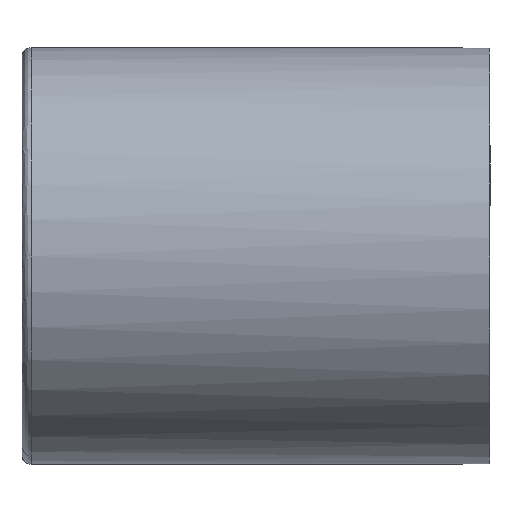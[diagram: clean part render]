
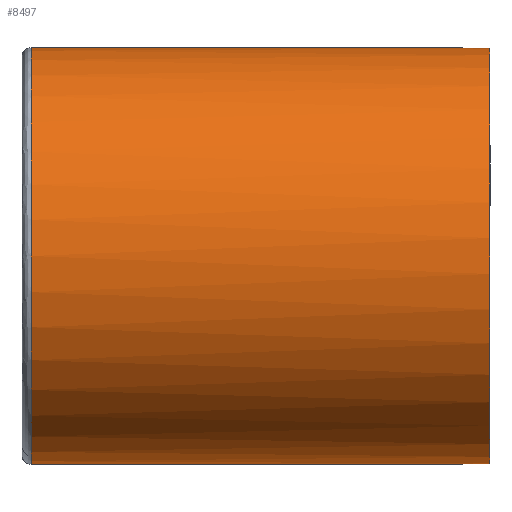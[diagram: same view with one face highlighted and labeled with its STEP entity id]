
A CAD part, front view. The second image highlights one B-rep face of the part: STEP entity #8497.
In plain terms, the highlighted cylindrical face has radius 22.5 mm (diameter 45 mm), a full revolution.
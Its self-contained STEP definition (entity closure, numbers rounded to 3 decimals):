
#204 = CIRCLE ( 'NONE', #3204, 22.5 ) ;
#886 = CARTESIAN_POINT ( 'NONE',  ( -49.9, 0., 22.5 ) ) ;
#1108 = AXIS2_PLACEMENT_3D ( 'NONE', #9171, #9163, #9159 ) ;
#1135 = CARTESIAN_POINT ( 'NONE',  ( -0.4, 20.156, 10. ) ) ;
#1149 = VERTEX_POINT ( 'NONE', #6932 ) ;
#1324 = VECTOR ( 'NONE', #6458, 1000. ) ;
#1361 = ORIENTED_EDGE ( 'NONE', *, *, #5335, .F. ) ;
#1436 = VERTEX_POINT ( 'NONE', #886 ) ;
#1711 = CARTESIAN_POINT ( 'NONE',  ( -24.17, 0., 0. ) ) ;
#1743 = DIRECTION ( 'NONE',  ( 1., 0., 0. ) ) ;
#1772 = DIRECTION ( 'NONE',  ( 0., 1., 0. ) ) ;
#1931 = LINE ( 'NONE', #6436, #1324 ) ;
#2132 = FACE_OUTER_BOUND ( 'NONE', #5630, .T. ) ;
#2238 = CIRCLE ( 'NONE', #3255, 22.5 ) ;
#2709 = EDGE_LOOP ( 'NONE', ( #5900, #1361 ) ) ;
#2770 = CARTESIAN_POINT ( 'NONE',  ( -49.9, 0., 0. ) ) ;
#2867 = AXIS2_PLACEMENT_3D ( 'NONE', #2770, #9168, #9222 ) ;
#2921 = CARTESIAN_POINT ( 'NONE',  ( -24.17, 20.156, -10. ) ) ;
#3162 = AXIS2_PLACEMENT_3D ( 'NONE', #3658, #3522, #3744 ) ;
#3204 = AXIS2_PLACEMENT_3D ( 'NONE', #1711, #1743, #1772 ) ;
#3255 = AXIS2_PLACEMENT_3D ( 'NONE', #5370, #5361, #5347 ) ;
#3522 = DIRECTION ( 'NONE',  ( -1., 0., 0. ) ) ;
#3564 = ORIENTED_EDGE ( 'NONE', *, *, #5425, .F. ) ;
#3658 = CARTESIAN_POINT ( 'NONE',  ( -0.4, 0., 0. ) ) ;
#3744 = DIRECTION ( 'NONE',  ( 0., 1., 0. ) ) ;
#3953 = CARTESIAN_POINT ( 'NONE',  ( -49.9, 0., -22.5 ) ) ;
#3989 = ORIENTED_EDGE ( 'NONE', *, *, #5539, .F. ) ;
#4030 = VERTEX_POINT ( 'NONE', #3953 ) ;
#4079 = LINE ( 'NONE', #7957, #4326 ) ;
#4326 = VECTOR ( 'NONE', #7923, 1000. ) ;
#4346 = CARTESIAN_POINT ( 'NONE',  ( -24.17, 20.156, 10. ) ) ;
#4522 = ORIENTED_EDGE ( 'NONE', *, *, #6938, .F. ) ;
#4566 = VERTEX_POINT ( 'NONE', #4346 ) ;
#4660 = ORIENTED_EDGE ( 'NONE', *, *, #5692, .T. ) ;
#4727 = CIRCLE ( 'NONE', #1108, 22.5 ) ;
#5335 = EDGE_CURVE ( 'NONE', #4030, #1436, #2238, .T. ) ;
#5347 = DIRECTION ( 'NONE',  ( 0., 0., -1. ) ) ;
#5361 = DIRECTION ( 'NONE',  ( -1., 0., 0. ) ) ;
#5370 = CARTESIAN_POINT ( 'NONE',  ( -49.9, 0., 0. ) ) ;
#5425 = EDGE_CURVE ( 'NONE', #1149, #6751, #1931, .T. ) ;
#5492 = VERTEX_POINT ( 'NONE', #1135 ) ;
#5539 = EDGE_CURVE ( 'NONE', #6751, #4566, #204, .T. ) ;
#5630 = EDGE_LOOP ( 'NONE', ( #4660, #4522, #3989, #3564 ) ) ;
#5692 = EDGE_CURVE ( 'NONE', #1149, #5492, #7965, .T. ) ;
#5900 = ORIENTED_EDGE ( 'NONE', *, *, #7081, .F. ) ;
#6436 = CARTESIAN_POINT ( 'NONE',  ( -25.15, 20.156, -10. ) ) ;
#6458 = DIRECTION ( 'NONE',  ( -1., 0., 0. ) ) ;
#6751 = VERTEX_POINT ( 'NONE', #2921 ) ;
#6932 = CARTESIAN_POINT ( 'NONE',  ( -0.4, 20.156, -10. ) ) ;
#6938 = EDGE_CURVE ( 'NONE', #4566, #5492, #4079, .T. ) ;
#7081 = EDGE_CURVE ( 'NONE', #1436, #4030, #4727, .T. ) ;
#7923 = DIRECTION ( 'NONE',  ( 1., 0., 0. ) ) ;
#7957 = CARTESIAN_POINT ( 'NONE',  ( -25.15, 20.156, 10. ) ) ;
#7965 = CIRCLE ( 'NONE', #3162, 22.5 ) ;
#8337 = CYLINDRICAL_SURFACE ( 'NONE', #2867, 22.5 ) ;
#8497 = ADVANCED_FACE ( 'NONE', ( #8540, #2132 ), #8337, .T. ) ;
#8540 = FACE_OUTER_BOUND ( 'NONE', #2709, .T. ) ;
#9159 = DIRECTION ( 'NONE',  ( 0., 0., -1. ) ) ;
#9163 = DIRECTION ( 'NONE',  ( -1., 0., 0. ) ) ;
#9168 = DIRECTION ( 'NONE',  ( 1., 0., 0. ) ) ;
#9171 = CARTESIAN_POINT ( 'NONE',  ( -49.9, 0., 0. ) ) ;
#9222 = DIRECTION ( 'NONE',  ( 0., 1., 0. ) ) ;
